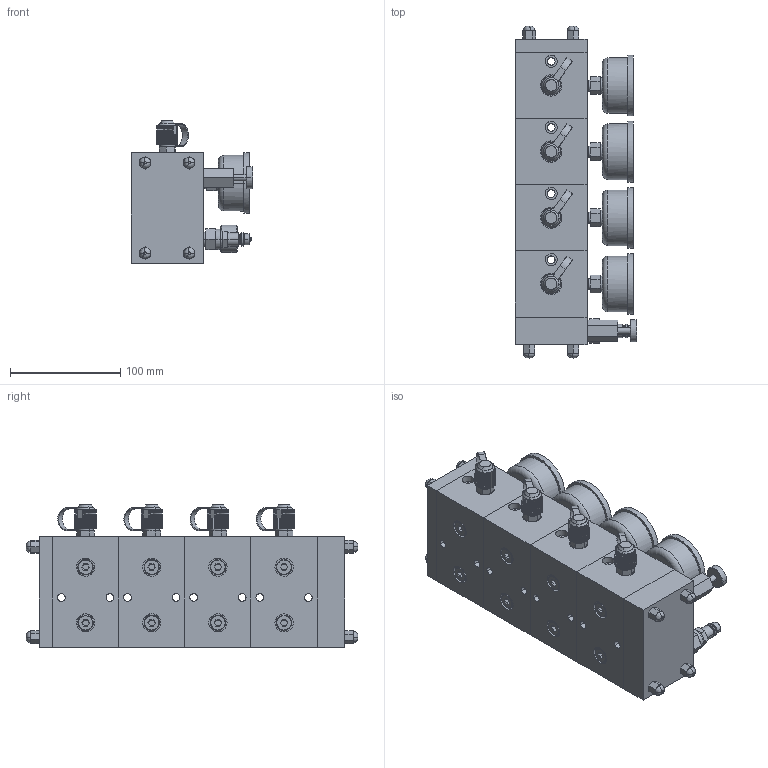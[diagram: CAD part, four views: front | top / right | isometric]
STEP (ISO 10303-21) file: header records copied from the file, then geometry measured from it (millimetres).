
FILE_DESCRIPTION(('CATIA V5 STEP Exchange'),'2;1');
FILE_NAME('W:\LIBRERIA TECAPRES®\FICHEROS CAD\PANEL DE CONTROL\PM201.stp','2016-02-03T07:15:01+00:00',('none'),('none'),'CATIA Version 5 Release 17 (IN-10)','CATIA V5 STEP AP203','none');
FILE_SCHEMA(('CONFIG_CONTROL_DESIGN'));
Products named in the file (1): MULTIPLE CONTROL PANEL PM201
Bounding box: 110 x 301 x 129 mm (x, y, z)
Volume: 264096.2 mm3; surface area: 265952.5 mm2
Topology: 2 solids, 6 shells, 2020 faces, 5478 edges, 3573 vertices
Faces by surface type: plane 1229, cylinder 552, cone 131, torus 76, revolution 32
Entity records: 71418 total; most frequent: CARTESIAN_POINT 23588, ORIENTED_EDGE 11068, DIRECTION 7736, EDGE_CURVE 5534, VECTOR 3745, LINE 3745, VERTEX_POINT 3609, AXIS2_PLACEMENT_3D 2424
